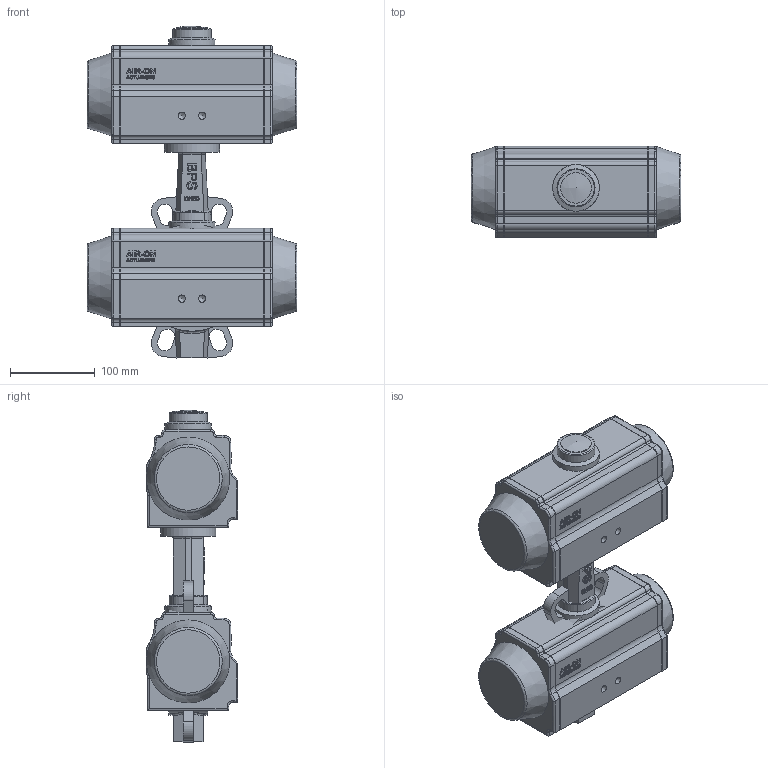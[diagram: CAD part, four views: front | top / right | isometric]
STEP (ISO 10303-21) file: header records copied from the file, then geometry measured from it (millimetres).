
FILE_DESCRIPTION( ( 'Unknown' ), '1' );
FILE_NAME( 'R:/ECCUA/ROOTSI BPS 3D vidinad/Poordklapid Wafer type/Butterfly valve(wafer) with pneumatic actuator BPS/STEP formaat/BPS 2303080PE butterfly valve DN80.stp', 'Unknown', ( 'Unknown' ), ( 'Unknown' ), 'PSStep 10.1', 'Unknown', ' ' );
FILE_SCHEMA( ( 'AUTOMOTIVE_DESIGN { 1 0 10303 214 1 1 1 1 }' ) );
Length unit declared in the file: millimetre
Products named in the file (5): Assem1; Butterfly valve wafer type DN80 BPS; BPS 8300088DA-SR pneumatic actuator
Bounding box: 248 x 108 x 392.16 mm (x, y, z)
Volume: 6299454.8 mm3; surface area: 517906.3 mm2
Topology: 8 solids, 8 shells, 1004 faces, 2556 edges, 1652 vertices
Faces by surface type: plane 326, extrusion 276, cylinder 240, torus 74, bspline 48, cone 38, sphere 2
Full cylindrical faces by diameter (mm): 4.917 x8, 6.647 x8, 7 x8, 8.376 x8, 8.566 x4, 36 x2, 45 x2, 55 x2, 65 x2, 80 x2, 113 x4, 127 x2
Entity records: 23687 total; most frequent: CARTESIAN_POINT 8178, ORIENTED_EDGE 2368, DIRECTION 2074, EDGE_CURVE 1184, VERTEX_POINT 804, VECTOR 732, AXIS2_PLACEMENT_3D 671, EDGE_LOOP 622
